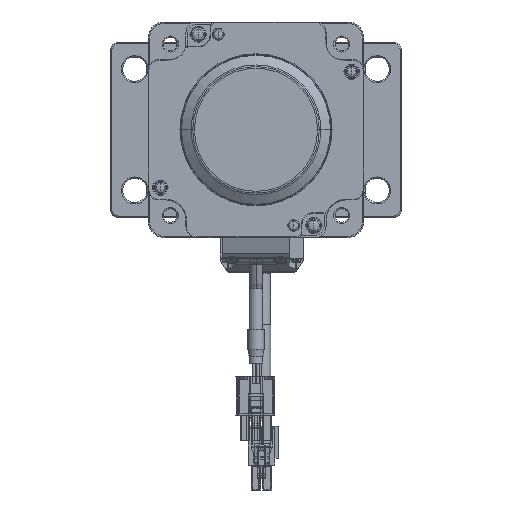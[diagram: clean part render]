
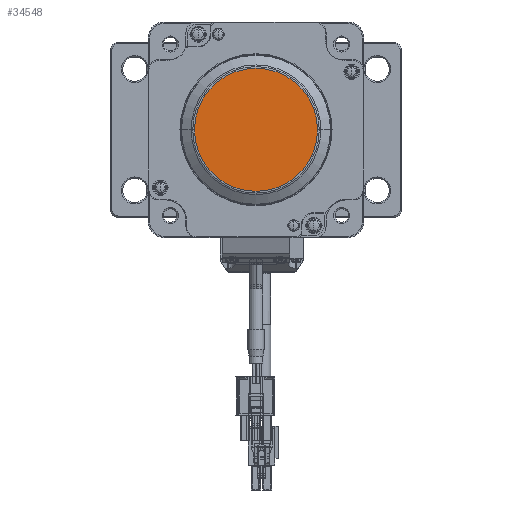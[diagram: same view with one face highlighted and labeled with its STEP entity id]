
A CAD part, front view. The second image highlights one B-rep face of the part: STEP entity #34548.
In plain terms, the highlighted planar face has unit normal (0, -1, 0) as drawn and (-1, 0, 0) by its records, which use the part's own axes.
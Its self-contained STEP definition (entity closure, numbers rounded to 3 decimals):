
#27529=CARTESIAN_POINT('',(-91.9,0.,0.));
#27530=DIRECTION('',(-1.,0.,0.));
#27531=DIRECTION('',(0.,0.,-1.));
#27532=AXIS2_PLACEMENT_3D('',#27529,#27530,#27531);
#27534=CARTESIAN_POINT('',(-91.9,0.,0.));
#27535=DIRECTION('',(-1.,0.,0.));
#27536=DIRECTION('',(0.,0.,1.));
#27537=AXIS2_PLACEMENT_3D('',#27534,#27535,#27536);
#29361=CARTESIAN_POINT('',(-91.9,0.,-22.84));
#29363=VERTEX_POINT('',#29361);
#29367=CARTESIAN_POINT('',(-91.9,0.,22.84));
#29368=VERTEX_POINT('',#29367);
#34538=CARTESIAN_POINT('',(-91.9,-22.,36.));
#34539=DIRECTION('',(1.,0.,0.));
#34540=DIRECTION('',(0.,0.,-1.));
#34541=AXIS2_PLACEMENT_3D('',#34538,#34539,#34540);
#34542=PLANE('',#34541);
#34543=ORIENTED_EDGE('',*,*,#34528,.F.);
#34545=ORIENTED_EDGE('',*,*,#34544,.F.);
#34546=EDGE_LOOP('',(#34543,#34545));
#34547=FACE_OUTER_BOUND('',#34546,.F.);
#34548=ADVANCED_FACE('',(#34547),#34542,.F.);
#27533=CIRCLE('',#27532,22.84);
#27538=CIRCLE('',#27537,22.84);
#34528=EDGE_CURVE('',#29363,#29368,#27533,.T.);
#34544=EDGE_CURVE('',#29368,#29363,#27538,.T.);
